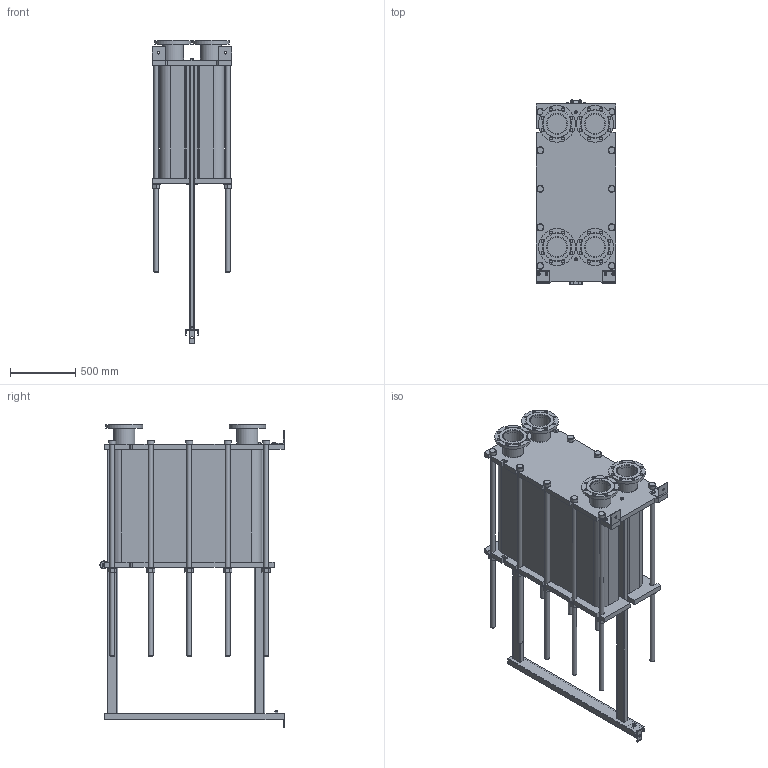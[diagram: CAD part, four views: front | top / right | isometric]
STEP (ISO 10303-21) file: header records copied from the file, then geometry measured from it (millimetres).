
FILE_DESCRIPTION(/* description */ (''),/* implementation_level */ '2;1');
FILE_NAME(/* name */ 'C:\Users\zhuro\Desktop\ENCO\TO\ЭН-041\ЭН-0,5-041-250-1.stp',/* time_stamp */ '2022-06-06T11:10:05+03:00',/* author */ ('zhuro'),/* organization */ (''),/* preprocessor_version */ 'ST-DEVELOPER v18.1',/* originating_system */ 'Autodesk Inventor 2022',/* authorisation */ '');
FILE_SCHEMA (('AUTOMOTIVE_DESIGN { 1 0 10303 214 3 1 1 }'));
Length unit declared in the file: millimetre
Products named in the file (1): ЭН-0,5-041-250-1
Bounding box: 610 x 1406.5 x 2315 mm (x, y, z)
Volume: 576116188.7 mm3; surface area: 12331888.1 mm2
Topology: 52 solids, 52 shells, 711 faces, 1696 edges, 1094 vertices
Faces by surface type: plane 487, cylinder 177, cone 41, torus 6
Full cylindrical faces by diameter (mm): 8 x4, 10 x2, 16 x8, 18 x3, 22 x32, 36 x24, 50 x1, 54 x10, 60 x12, 151 x4, 161 x8, 280 x4
Entity records: 22667 total; most frequent: CARTESIAN_POINT 5230, DIRECTION 3644, ORIENTED_EDGE 3392, EDGE_CURVE 1696, AXIS2_PLACEMENT_3D 1272, LINE 1100, VECTOR 1100, VERTEX_POINT 1094
